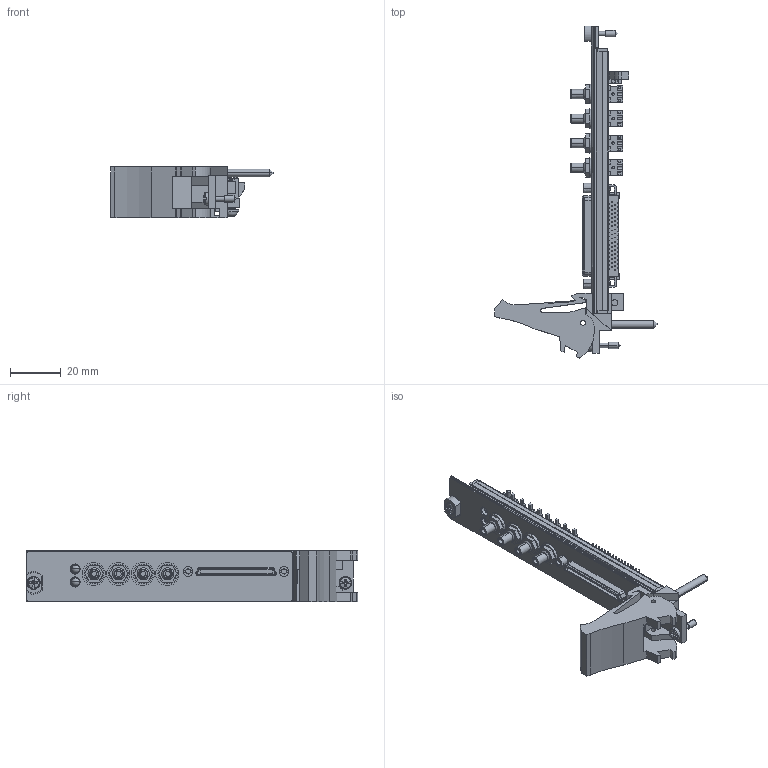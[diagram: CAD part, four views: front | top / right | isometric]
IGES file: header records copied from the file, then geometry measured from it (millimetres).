
Start section:  PTC IGES file: cu_pxi-5421.igs
Global section: file name: cu_pxi-5421.igs; native system: Pro/ENGINEER by Parametric Technology Corporation; preprocessor: 2006080; author: jjorden; organization: Unknown; date: 091229.162539; units: inch
Bounding box: 63.73 x 130.51 x 20.31 mm (x, y, z)
Surface area: 20472.8 mm2 (no closed solid volume)
Topology: 0 solids, 0 shells, 2050 faces, 11272 edges, 11260 vertices
Faces by surface type: bspline 1581, revolution 467, extrusion 2
